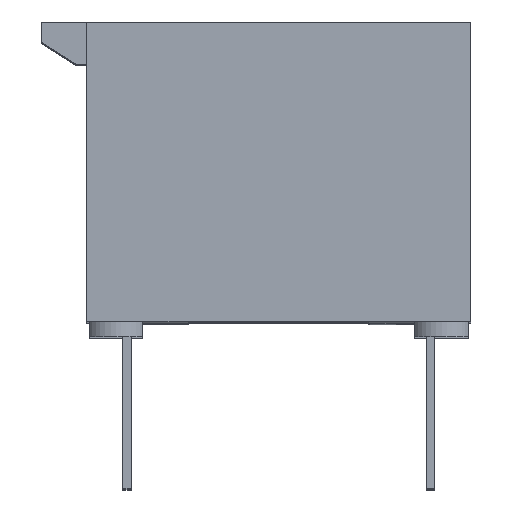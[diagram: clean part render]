
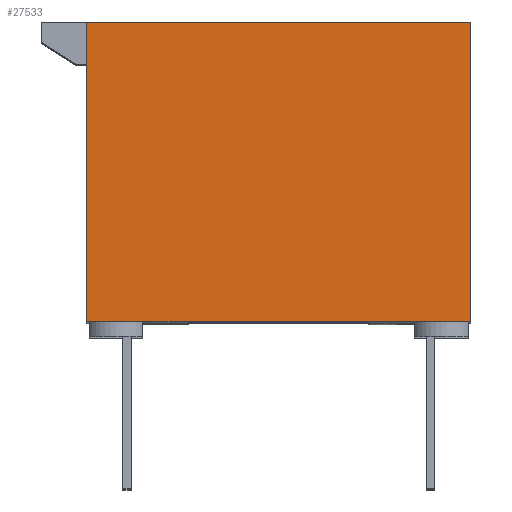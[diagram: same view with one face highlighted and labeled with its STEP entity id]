
A CAD part, top view. The second image highlights one B-rep face of the part: STEP entity #27533.
In plain terms, the highlighted planar face has unit normal (0, 0, 1).
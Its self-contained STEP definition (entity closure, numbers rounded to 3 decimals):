
#29 = DIRECTION ( 'NONE',  ( -1., 0., 0. ) ) ;
#768 = CARTESIAN_POINT ( 'NONE',  ( -4.889, 0., 0. ) ) ;
#843 = ORIENTED_EDGE ( 'NONE', *, *, #7316, .T. ) ;
#1443 = CARTESIAN_POINT ( 'NONE',  ( -4.407, 0., 0. ) ) ;
#1854 = EDGE_CURVE ( 'NONE', #9328, #28702, #28121, .T. ) ;
#2248 = ORIENTED_EDGE ( 'NONE', *, *, #28379, .T. ) ;
#2911 = AXIS2_PLACEMENT_3D ( 'NONE', #4321, #4613, #29 ) ;
#2977 = CARTESIAN_POINT ( 'NONE',  ( 4.026, 0., 0. ) ) ;
#4321 = CARTESIAN_POINT ( 'NONE',  ( -4.889, 0., 0. ) ) ;
#4613 = DIRECTION ( 'NONE',  ( 0., 0., -1. ) ) ;
#4720 = ORIENTED_EDGE ( 'NONE', *, *, #14429, .T. ) ;
#6710 = DIRECTION ( 'NONE',  ( 1., 0., 0. ) ) ;
#6725 = VERTEX_POINT ( 'NONE', #8940 ) ;
#6787 = CARTESIAN_POINT ( 'NONE',  ( -4.407, 0., 0. ) ) ;
#7316 = EDGE_CURVE ( 'NONE', #28702, #6725, #24537, .T. ) ;
#7401 = CARTESIAN_POINT ( 'NONE',  ( 4.763, 0., 0. ) ) ;
#8176 = LINE ( 'NONE', #15323, #17678 ) ;
#8184 = VECTOR ( 'NONE', #22371, 1000. ) ;
#8751 = ORIENTED_EDGE ( 'NONE', *, *, #27595, .T. ) ;
#8940 = CARTESIAN_POINT ( 'NONE',  ( -4.153, 0., 0. ) ) ;
#9328 = VERTEX_POINT ( 'NONE', #27820 ) ;
#9695 = EDGE_LOOP ( 'NONE', ( #4720, #11907, #843, #20313, #2248, #8751 ) ) ;
#11352 = CARTESIAN_POINT ( 'NONE',  ( 4.763, 7.518, 0. ) ) ;
#11552 = DIRECTION ( 'NONE',  ( 1., 0., 0. ) ) ;
#11907 = ORIENTED_EDGE ( 'NONE', *, *, #1854, .T. ) ;
#12704 = LINE ( 'NONE', #1443, #8184 ) ;
#13078 = DIRECTION ( 'NONE',  ( -1., 0., 0. ) ) ;
#13129 = LINE ( 'NONE', #22317, #22372 ) ;
#13846 = VERTEX_POINT ( 'NONE', #2977 ) ;
#14429 = EDGE_CURVE ( 'NONE', #27271, #9328, #8176, .T. ) ;
#14633 = CARTESIAN_POINT ( 'NONE',  ( -4.889, 0., 0. ) ) ;
#15323 = CARTESIAN_POINT ( 'NONE',  ( 4.763, 7.518, 0. ) ) ;
#15765 = FACE_OUTER_BOUND ( 'NONE', #9695, .T. ) ;
#17678 = VECTOR ( 'NONE', #13078, 1000. ) ;
#17963 = EDGE_CURVE ( 'NONE', #6725, #13846, #20301, .T. ) ;
#19291 = VECTOR ( 'NONE', #6710, 1000. ) ;
#19357 = DIRECTION ( 'NONE',  ( 0., -1., 0. ) ) ;
#20099 = DIRECTION ( 'NONE',  ( 0., 1., 0. ) ) ;
#20301 = LINE ( 'NONE', #6787, #27011 ) ;
#20313 = ORIENTED_EDGE ( 'NONE', *, *, #17963, .T. ) ;
#22317 = CARTESIAN_POINT ( 'NONE',  ( 4.763, 0., 0. ) ) ;
#22371 = DIRECTION ( 'NONE',  ( 1., 0., 0. ) ) ;
#22372 = VECTOR ( 'NONE', #20099, 1000. ) ;
#22784 = VECTOR ( 'NONE', #19357, 1000. ) ;
#24220 = VERTEX_POINT ( 'NONE', #7401 ) ;
#24537 = LINE ( 'NONE', #24834, #19291 ) ;
#24834 = CARTESIAN_POINT ( 'NONE',  ( -4.407, 0., 0. ) ) ;
#27011 = VECTOR ( 'NONE', #11552, 1000. ) ;
#27271 = VERTEX_POINT ( 'NONE', #11352 ) ;
#27533 = ADVANCED_FACE ( 'NONE', ( #15765 ), #29264, .F. ) ;
#27595 = EDGE_CURVE ( 'NONE', #24220, #27271, #13129, .T. ) ;
#27820 = CARTESIAN_POINT ( 'NONE',  ( -4.89, 7.518, 0. ) ) ;
#28121 = LINE ( 'NONE', #14633, #22784 ) ;
#28379 = EDGE_CURVE ( 'NONE', #13846, #24220, #12704, .T. ) ;
#28702 = VERTEX_POINT ( 'NONE', #768 ) ;
#29264 = PLANE ( 'NONE',  #2911 ) ;
